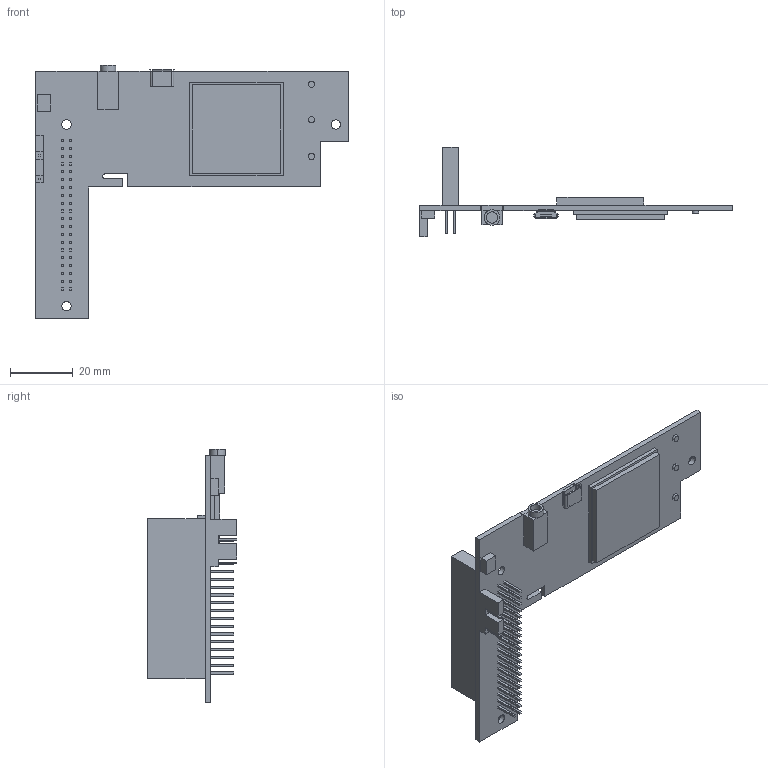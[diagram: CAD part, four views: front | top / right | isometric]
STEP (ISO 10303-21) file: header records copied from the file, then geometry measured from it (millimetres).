
FILE_DESCRIPTION((''),'2;1');
FILE_NAME('0408','2021-04-08T',('Administrator'),(''),'PRO/ENGINEER BY PARAMETRIC TECHNOLOGY CORPORATION, 2002350','PRO/ENGINEER BY PARAMETRIC TECHNOLOGY CORPORATION, 2002350','');
FILE_SCHEMA(('CONFIG_CONTROL_DESIGN'));
Length unit declared in the file: millimetre
Products named in the file (1): 0408
Bounding box: 100 x 28.5 x 81.2 mm (x, y, z)
Volume: 16052.7 mm3; surface area: 14618.2 mm2
Topology: 1 solids, 1 shells, 591 faces, 1490 edges, 986 vertices
Faces by surface type: plane 561, cylinder 30
Entity records: 17505 total; most frequent: CARTESIAN_POINT 3137, ORIENTED_EDGE 2980, DIRECTION 2726, EDGE_CURVE 1490, VECTOR 1410, LINE 1410, VERTEX_POINT 986, EDGE_LOOP 700
